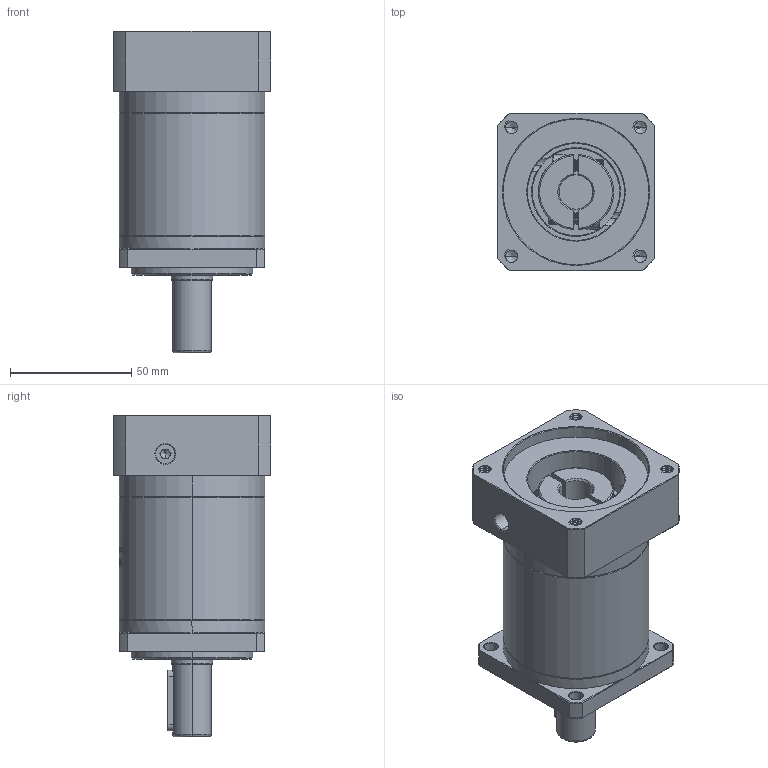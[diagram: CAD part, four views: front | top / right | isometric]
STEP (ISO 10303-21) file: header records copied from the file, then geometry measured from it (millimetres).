
FILE_DESCRIPTION (( 'STEP AP214' ), '1' );
FILE_NAME ('ZF60-D16-L2-14-60-75-M6.STEP', '2022-04-17T11:49:08', ( '' ), ( 'Microsoft' ), 'SwSTEP 2.0', 'SolidWorks 2016', '' );
FILE_SCHEMA (( 'AUTOMOTIVE_DESIGN' ));
Length unit declared in the file: millimetre
Products named in the file (1): ZF60-D16-L2-14-60-75-M6
Bounding box: 65 x 65 x 132.5 mm (x, y, z)
Volume: 284023 mm3; surface area: 50496.8 mm2
Topology: 6 solids, 6 shells, 1665 faces, 4488 edges, 2900 vertices
Faces by surface type: plane 749, cylinder 363, bspline 299, cone 236, torus 18
Entity records: 94607 total; most frequent: CARTESIAN_POINT 38323, ORIENTED_EDGE 8948, DIRECTION 6581, EDGE_CURVE 4474, VERTEX_POINT 2900, LINE 2279, VECTOR 2279, AXIS2_PLACEMENT_3D 2151
